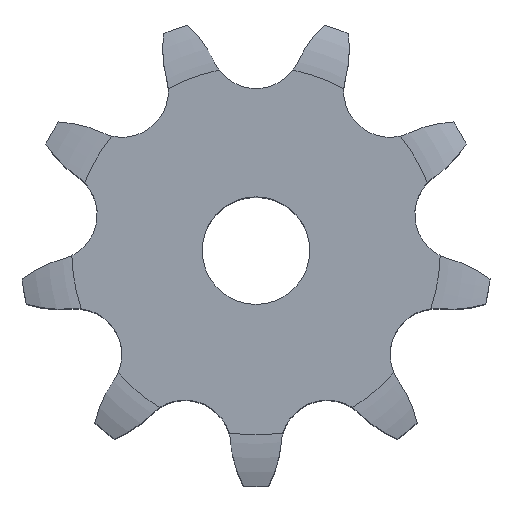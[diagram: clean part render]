
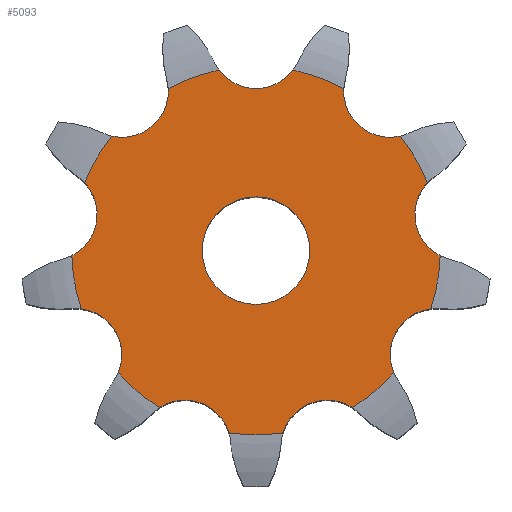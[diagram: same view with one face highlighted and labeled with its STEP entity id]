
A CAD part, top view. The second image highlights one B-rep face of the part: STEP entity #5093.
In plain terms, the highlighted planar face has unit normal (0, 0, 1).
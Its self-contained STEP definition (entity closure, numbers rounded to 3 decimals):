
#33=CARTESIAN_POINT('',(0.,0.,21.05));
#34=DIRECTION('',(0.,0.,-1.));
#35=DIRECTION('',(0.2,0.98,0.));
#36=AXIS2_PLACEMENT_3D('',#33,#34,#35);
#42=CARTESIAN_POINT('',(14.918,17.778,21.05));
#43=DIRECTION('',(0.,0.,1.));
#44=DIRECTION('',(-0.998,0.057,0.));
#45=AXIS2_PLACEMENT_3D('',#42,#43,#44);
#50=CARTESIAN_POINT('',(0.,0.,21.05));
#51=DIRECTION('',(0.,0.,-1.));
#52=DIRECTION('',(0.783,0.622,0.));
#53=AXIS2_PLACEMENT_3D('',#50,#51,#52);
#58=CARTESIAN_POINT('',(22.855,4.03,21.05));
#59=DIRECTION('',(0.,0.,1.));
#60=DIRECTION('',(-0.728,0.686,0.));
#61=AXIS2_PLACEMENT_3D('',#58,#59,#60);
#66=CARTESIAN_POINT('',(0.,0.,21.05));
#67=DIRECTION('',(0.,0.,-1.));
#68=DIRECTION('',(1.,-0.027,0.));
#69=AXIS2_PLACEMENT_3D('',#66,#67,#68);
#74=CARTESIAN_POINT('',(20.098,-11.604,21.05));
#75=DIRECTION('',(0.,0.,1.));
#76=DIRECTION('',(-0.117,0.993,0.));
#77=AXIS2_PLACEMENT_3D('',#74,#75,#76);
#82=CARTESIAN_POINT('',(0.,0.,21.05));
#83=DIRECTION('',(0.,0.,-1.));
#84=DIRECTION('',(0.748,-0.663,0.));
#85=AXIS2_PLACEMENT_3D('',#82,#83,#84);
#90=CARTESIAN_POINT('',(7.938,-21.808,21.05));
#91=DIRECTION('',(0.,0.,1.));
#92=DIRECTION('',(0.549,0.836,0.));
#93=AXIS2_PLACEMENT_3D('',#90,#91,#92);
#98=CARTESIAN_POINT('',(-7.938,-21.808,21.05));
#99=DIRECTION('',(0.,0.,1.));
#100=DIRECTION('',(0.958,0.287,0.));
#101=AXIS2_PLACEMENT_3D('',#98,#99,#100);
#106=CARTESIAN_POINT('',(0.,0.,21.05));
#107=DIRECTION('',(0.,0.,-1.));
#108=DIRECTION('',(-0.523,-0.852,0.));
#109=AXIS2_PLACEMENT_3D('',#106,#107,#108);
#114=CARTESIAN_POINT('',(-20.098,-11.604,21.05));
#115=DIRECTION('',(0.,0.,1.));
#116=DIRECTION('',(0.919,-0.395,0.));
#117=AXIS2_PLACEMENT_3D('',#114,#115,#116);
#122=CARTESIAN_POINT('',(0.,0.,21.05));
#123=DIRECTION('',(0.,0.,-1.));
#124=DIRECTION('',(-0.949,-0.317,0.));
#125=AXIS2_PLACEMENT_3D('',#122,#123,#124);
#130=CARTESIAN_POINT('',(-22.855,4.03,21.05));
#131=DIRECTION('',(0.,0.,1.));
#132=DIRECTION('',(0.449,-0.893,0.));
#133=AXIS2_PLACEMENT_3D('',#130,#131,#132);
#138=CARTESIAN_POINT('',(0.,0.,21.05));
#139=DIRECTION('',(0.,0.,-1.));
#140=DIRECTION('',(-0.93,0.367,0.));
#141=AXIS2_PLACEMENT_3D('',#138,#139,#140);
#146=CARTESIAN_POINT('',(-14.918,17.778,21.05));
#147=DIRECTION('',(0.,0.,1.));
#148=DIRECTION('',(-0.23,-0.973,0.));
#149=AXIS2_PLACEMENT_3D('',#146,#147,#148);
#154=CARTESIAN_POINT('',(0.,0.,21.05));
#155=DIRECTION('',(0.,0.,-1.));
#156=DIRECTION('',(-0.477,0.879,0.));
#157=AXIS2_PLACEMENT_3D('',#154,#155,#156);
#162=CARTESIAN_POINT('',(0.,23.208,21.05));
#163=DIRECTION('',(0.,0.,1.));
#164=DIRECTION('',(-0.802,-0.598,0.));
#165=AXIS2_PLACEMENT_3D('',#162,#163,#164);
#170=CARTESIAN_POINT('',(0.,0.,21.05));
#171=DIRECTION('',(0.,0.,1.));
#172=DIRECTION('',(1.,0.,0.));
#173=AXIS2_PLACEMENT_3D('',#170,#171,#172);
#178=CARTESIAN_POINT('',(0.,0.,21.05));
#179=DIRECTION('',(0.,0.,1.));
#180=DIRECTION('',(-1.,0.,0.));
#181=AXIS2_PLACEMENT_3D('',#178,#179,#180);
#234=CARTESIAN_POINT('',(0.,0.,21.05));
#235=DIRECTION('',(0.,0.,1.));
#236=DIRECTION('',(-0.147,-0.989,0.));
#237=AXIS2_PLACEMENT_3D('',#234,#235,#236);
#3379=CARTESIAN_POINT('',(-3.023,-20.333,21.05));
#4492=CARTESIAN_POINT('',(4.113,20.141,21.05));
#4493=CARTESIAN_POINT('',(9.795,18.073,21.05));
#4494=VERTEX_POINT('',#4492);
#4495=VERTEX_POINT('',#4493);
#4496=CARTESIAN_POINT('',(16.097,12.785,21.05));
#4497=CARTESIAN_POINT('',(19.121,7.548,21.05));
#4498=VERTEX_POINT('',#4496);
#4499=VERTEX_POINT('',#4497);
#4500=CARTESIAN_POINT('',(20.549,-0.553,21.05));
#4501=CARTESIAN_POINT('',(19.499,-6.508,21.05));
#4502=VERTEX_POINT('',#4500);
#4503=VERTEX_POINT('',#4501);
#4504=CARTESIAN_POINT('',(15.386,-13.633,21.05));
#4505=CARTESIAN_POINT('',(10.754,-17.519,21.05));
#4506=VERTEX_POINT('',#4504);
#4507=VERTEX_POINT('',#4505);
#4508=CARTESIAN_POINT('',(-10.754,-17.519,21.05));
#4509=CARTESIAN_POINT('',(-15.386,-13.633,21.05));
#4510=VERTEX_POINT('',#4508);
#4511=VERTEX_POINT('',#4509);
#4512=CARTESIAN_POINT('',(-19.499,-6.508,21.05));
#4513=CARTESIAN_POINT('',(-20.549,-0.553,21.05));
#4514=VERTEX_POINT('',#4512);
#4515=VERTEX_POINT('',#4513);
#4516=CARTESIAN_POINT('',(-19.121,7.548,21.05));
#4517=CARTESIAN_POINT('',(-16.097,12.785,21.05));
#4518=VERTEX_POINT('',#4516);
#4519=VERTEX_POINT('',#4517);
#4563=VERTEX_POINT('',#3379);
#4578=CARTESIAN_POINT('',(3.023,-20.333,21.05));
#4579=VERTEX_POINT('',#4578);
#4582=CARTESIAN_POINT('',(-9.795,18.073,21.05));
#4583=VERTEX_POINT('',#4582);
#4586=CARTESIAN_POINT('',(-4.113,20.141,21.05));
#4587=VERTEX_POINT('',#4586);
#4592=CARTESIAN_POINT('',(6.,0.,21.05));
#4593=CARTESIAN_POINT('',(-6.,0.,21.05));
#4594=VERTEX_POINT('',#4592);
#4595=VERTEX_POINT('',#4593);
#5044=CARTESIAN_POINT('',(0.,0.,21.05));
#5045=DIRECTION('',(0.,0.,1.));
#5046=DIRECTION('',(1.,0.,0.));
#5047=AXIS2_PLACEMENT_3D('',#5044,#5045,#5046);
#5048=PLANE('',#5047);
#5050=ORIENTED_EDGE('',*,*,#5049,.T.);
#5052=ORIENTED_EDGE('',*,*,#5051,.T.);
#5054=ORIENTED_EDGE('',*,*,#5053,.T.);
#5056=ORIENTED_EDGE('',*,*,#5055,.T.);
#5058=ORIENTED_EDGE('',*,*,#5057,.T.);
#5060=ORIENTED_EDGE('',*,*,#5059,.T.);
#5062=ORIENTED_EDGE('',*,*,#5061,.T.);
#5064=ORIENTED_EDGE('',*,*,#5063,.T.);
#5066=ORIENTED_EDGE('',*,*,#5065,.F.);
#5068=ORIENTED_EDGE('',*,*,#5067,.T.);
#5070=ORIENTED_EDGE('',*,*,#5069,.T.);
#5072=ORIENTED_EDGE('',*,*,#5071,.T.);
#5074=ORIENTED_EDGE('',*,*,#5073,.T.);
#5076=ORIENTED_EDGE('',*,*,#5075,.T.);
#5078=ORIENTED_EDGE('',*,*,#5077,.T.);
#5080=ORIENTED_EDGE('',*,*,#5079,.T.);
#5082=ORIENTED_EDGE('',*,*,#5081,.T.);
#5084=ORIENTED_EDGE('',*,*,#5083,.T.);
#5085=EDGE_LOOP('',(#5050,#5052,#5054,#5056,#5058,#5060,#5062,#5064,#5066,#5068,
#5070,#5072,#5074,#5076,#5078,#5080,#5082,#5084));
#5086=FACE_OUTER_BOUND('',#5085,.F.);
#5088=ORIENTED_EDGE('',*,*,#5087,.T.);
#5090=ORIENTED_EDGE('',*,*,#5089,.T.);
#5091=EDGE_LOOP('',(#5088,#5090));
#5092=FACE_BOUND('',#5091,.F.);
#5093=ADVANCED_FACE('',(#5086,#5092),#5048,.T.);
#37=CIRCLE('',#36,20.557);
#46=CIRCLE('',#45,5.131);
#54=CIRCLE('',#53,20.557);
#62=CIRCLE('',#61,5.131);
#70=CIRCLE('',#69,20.557);
#78=CIRCLE('',#77,5.131);
#86=CIRCLE('',#85,20.557);
#94=CIRCLE('',#93,5.131);
#102=CIRCLE('',#101,5.131);
#110=CIRCLE('',#109,20.557);
#118=CIRCLE('',#117,5.131);
#126=CIRCLE('',#125,20.557);
#134=CIRCLE('',#133,5.131);
#142=CIRCLE('',#141,20.557);
#150=CIRCLE('',#149,5.131);
#158=CIRCLE('',#157,20.557);
#166=CIRCLE('',#165,5.131);
#174=CIRCLE('',#173,6.);
#182=CIRCLE('',#181,6.);
#238=CIRCLE('',#237,20.557);
#5049=EDGE_CURVE('',#4494,#4495,#37,.T.);
#5051=EDGE_CURVE('',#4495,#4498,#46,.T.);
#5053=EDGE_CURVE('',#4498,#4499,#54,.T.);
#5055=EDGE_CURVE('',#4499,#4502,#62,.T.);
#5057=EDGE_CURVE('',#4502,#4503,#70,.T.);
#5059=EDGE_CURVE('',#4503,#4506,#78,.T.);
#5061=EDGE_CURVE('',#4506,#4507,#86,.T.);
#5063=EDGE_CURVE('',#4507,#4579,#94,.T.);
#5065=EDGE_CURVE('',#4563,#4579,#238,.T.);
#5067=EDGE_CURVE('',#4563,#4510,#102,.T.);
#5069=EDGE_CURVE('',#4510,#4511,#110,.T.);
#5071=EDGE_CURVE('',#4511,#4514,#118,.T.);
#5073=EDGE_CURVE('',#4514,#4515,#126,.T.);
#5075=EDGE_CURVE('',#4515,#4518,#134,.T.);
#5077=EDGE_CURVE('',#4518,#4519,#142,.T.);
#5079=EDGE_CURVE('',#4519,#4583,#150,.T.);
#5081=EDGE_CURVE('',#4583,#4587,#158,.T.);
#5083=EDGE_CURVE('',#4587,#4494,#166,.T.);
#5087=EDGE_CURVE('',#4594,#4595,#174,.T.);
#5089=EDGE_CURVE('',#4595,#4594,#182,.T.);
